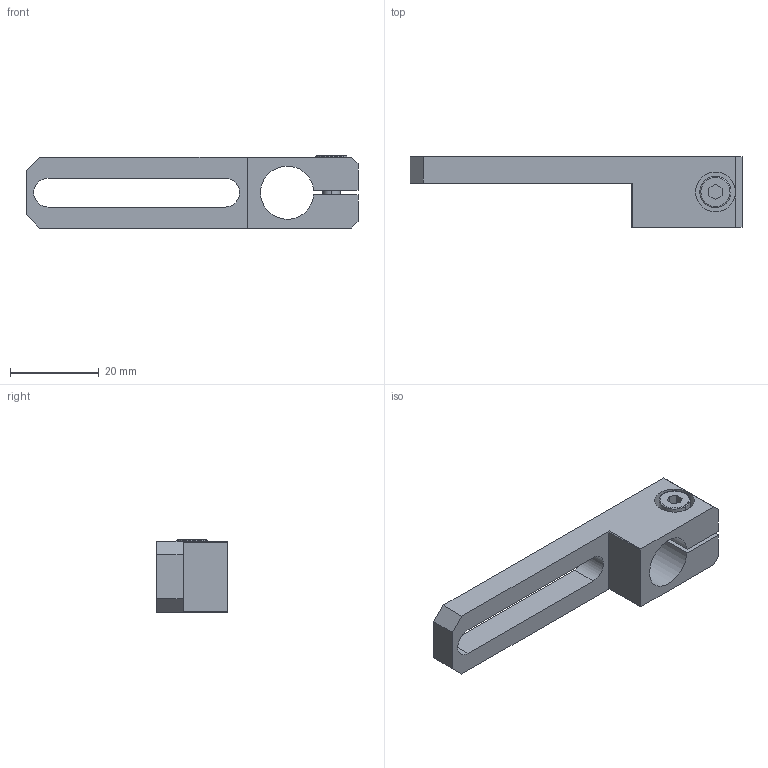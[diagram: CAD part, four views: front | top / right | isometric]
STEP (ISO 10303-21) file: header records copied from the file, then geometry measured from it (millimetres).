
FILE_DESCRIPTION (( 'STEP AP214' ), '1' );
FILE_NAME ('SCF4-1240W16T.STEP', '2023-01-17T03:58:04', ( 'Windows User' ), ( 'P R C' ), 'SwSTEP 2.0', 'SolidWorks 2019', '' );
FILE_SCHEMA (( 'AUTOMOTIVE_DESIGN' ));
Length unit declared in the file: millimetre
Products named in the file (1): SCF4-1240W16T
Bounding box: 75 x 16 x 16.3 mm (x, y, z)
Volume: 7206.9 mm3; surface area: 5496.3 mm2
Topology: 3 solids, 3 shells, 244 faces, 702 edges, 464 vertices
Faces by surface type: plane 222, cylinder 18, cone 2, bspline 2
Entity records: 10891 total; most frequent: CARTESIAN_POINT 1535, DIRECTION 1408, ORIENTED_EDGE 1404, EDGE_CURVE 702, LINE 474, VECTOR 474, AXIS2_PLACEMENT_3D 467, VERTEX_POINT 464
